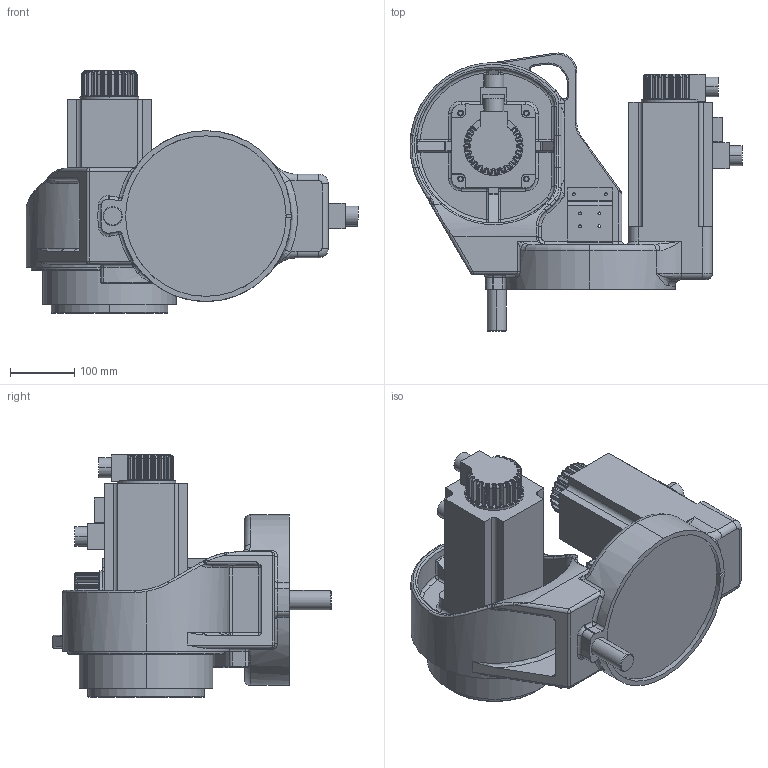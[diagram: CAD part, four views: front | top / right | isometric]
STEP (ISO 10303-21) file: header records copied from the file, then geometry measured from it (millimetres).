
FILE_DESCRIPTION (( 'STEP AP203' ), '1' );
FILE_NAME ('TKB3670-02.STEP', '2023-07-17T01:45:44', ( '1' ), ( '1' ), 'SwSTEP 2.0', 'SolidWorks 2018', '' );
FILE_SCHEMA (( 'CONFIG_CONTROL_DESIGN' ));
Length unit declared in the file: millimetre
Products named in the file (1): TKB3670-02
Bounding box: 517 x 433.03 x 377 mm (x, y, z)
Volume: 17557060.3 mm3; surface area: 959761.8 mm2
Topology: 2 solids, 5 shells, 1439 faces, 3584 edges, 2159 vertices
Faces by surface type: cylinder 680, plane 282, bspline 232, torus 210, cone 20, sphere 15
Entity records: 57106 total; most frequent: CARTESIAN_POINT 24408, ORIENTED_EDGE 7098, DIRECTION 6734, EDGE_CURVE 3549, AXIS2_PLACEMENT_3D 2704, VERTEX_POINT 2155, EDGE_LOOP 1498, CIRCLE 1496
